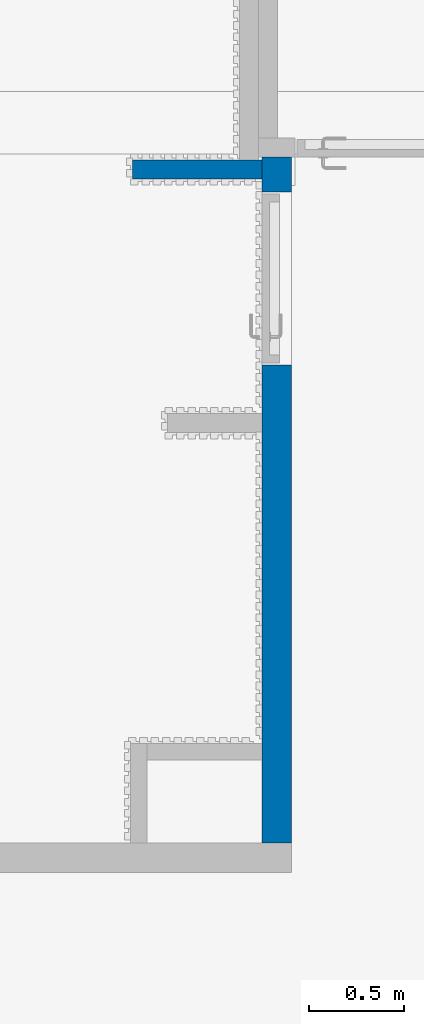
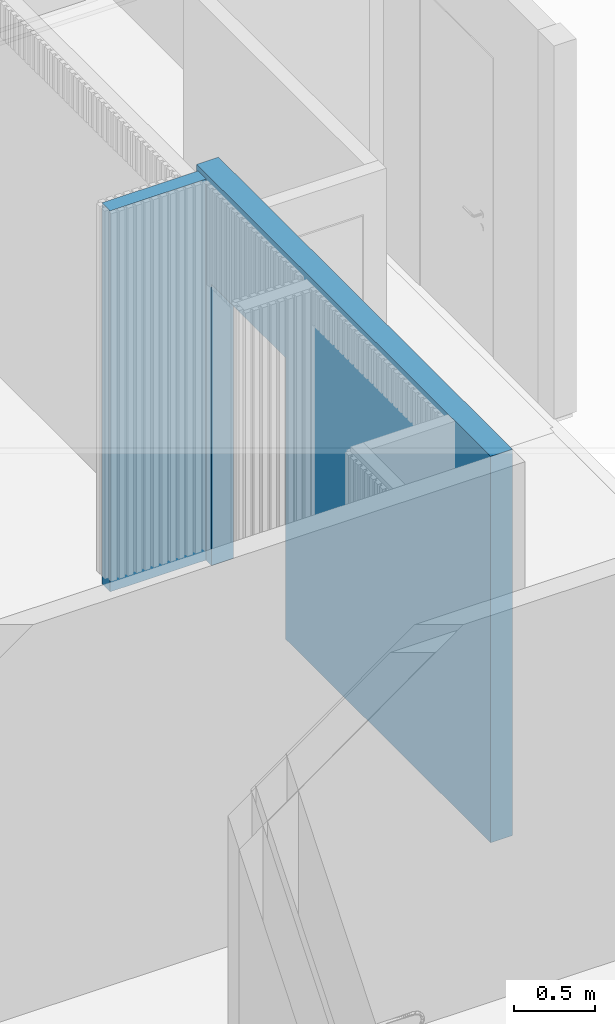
# One storey, part 21 of 37: 2 walls, 1 opening.
"""IFC2X3 building model written with IfcOpenShell, lengths in millimetres."""

from ifc_helpers import new_model, entity, si_unit, converted_unit, derived_unit, direction, frame, frame_2d, origin, origin_with_axes, place, context, subcontext, project, spatial, rectangle, extrude, material, layer, layer_set, layer_usage, type_object, element, save


model = new_model("IFC2X3")

# Units and contexts
model_context = context("Model", 3, precision=0.01, world=frame((0.0, 4.29681676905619e-09, 0.0)), true_north=direction((4.01073788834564e-13, 1.0)))
plan_context = context("Plan", 3, precision=0.01, world=frame((0.0, 4.29681676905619e-09, 0.0)), true_north=direction((4.01073788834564e-13, 1.0)))
body_context = subcontext(model_context, "Body", "Model", "MODEL_VIEW")
ifc_project = project(units=[converted_unit("PLANEANGLEUNIT", "DEGREE", entity("IfcPositiveLengthMeasure", 0.0174532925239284), si_unit("PLANEANGLEUNIT", "RADIAN"), dimensions=[0, 0, 0, 0, 0, 0, 0]), si_unit("AREAUNIT", "SQUARE_METRE"), si_unit("LENGTHUNIT", "METRE", prefix="MILLI"), si_unit("MASSUNIT", "GRAM", prefix="KILO"), si_unit("POWERUNIT", "WATT"), si_unit("PRESSUREUNIT", "PASCAL"), si_unit("FORCEUNIT", "NEWTON", prefix="KILO"), si_unit("ELECTRICVOLTAGEUNIT", "VOLT"), si_unit("ELECTRICCURRENTUNIT", "AMPERE"), si_unit("THERMODYNAMICTEMPERATUREUNIT", "DEGREE_CELSIUS"), si_unit("TIMEUNIT", "SECOND"), si_unit("VOLUMEUNIT", "CUBIC_METRE"), derived_unit("LINEARVELOCITYUNIT", [(si_unit("LENGTHUNIT", "METRE"), 1), (si_unit("TIMEUNIT", "SECOND"), -1)]), derived_unit("VOLUMETRICFLOWRATEUNIT", [(si_unit("VOLUMEUNIT", "CUBIC_METRE"), 1), (si_unit("TIMEUNIT", "SECOND"), -1)]), derived_unit("THERMALTRANSMITTANCEUNIT", [(si_unit("POWERUNIT", "WATT"), 1), (si_unit("THERMODYNAMICTEMPERATUREUNIT", "KELVIN"), -1), (si_unit("AREAUNIT", "SQUARE_METRE"), -1)]), derived_unit("SOUNDPRESSUREUNIT", [(si_unit("PRESSUREUNIT", "PASCAL"), 1)])], contexts=[model_context, plan_context])

# Site, building, storey
site_placement = place(None, origin_with_axes())
site = spatial("IfcSite", under=ifc_project, at=site_placement, Name="ENGM", CompositionType="ELEMENT")
building_placement = place(site_placement, origin_with_axes())
building = spatial("IfcBuilding", under=site, at=building_placement, Name="TS", CompositionType="ELEMENT")
storey_placement = place(building_placement, frame((0.0, 0.0, 210900.0), z_axis=(0.0, 0.0, 1.0), x_axis=(1.0, 0.0, 0.0)))
storey = spatial("IfcBuildingStorey", under=building, at=storey_placement, Name="Nivå F", CompositionType="ELEMENT", Elevation=210900.0)

# Wall, opening
ifc_material_1 = material(Name="Plate - Gips")
ifc_layer_1 = layer(ifc_material_1, 12.5)
ifc_material_2 = material(Name="_NSW X-finer")
ifc_layer_2 = layer(ifc_material_2, 15.0)
ifc_material_3 = material(Name="_NSW Stålstender, isolert UTEN SKRAVUR")
ifc_layer_3 = layer(ifc_material_3, 100.0)
ifc_layer_4 = layer(ifc_material_2, 15.0)
ifc_layer_5 = layer(ifc_material_1, 12.5)
ifc_layer_set_1 = layer_set([ifc_layer_1, ifc_layer_2, ifc_layer_3, ifc_layer_4, ifc_layer_5], Name="Basic Wall:A241 - SXVXS-100")
ifc_layer_usage_1 = layer_usage(ifc_layer_set_1, "AXIS2", "POSITIVE", -77.5)
wall_type_1 = type_object("IfcWallType", Name="Basic Wall:A241 - SXVXS-100", PredefinedType="STANDARD", material=ifc_layer_set_1)
wall_1_placement = place(storey_placement, frame((533660.037499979, 448076.999999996, 0.0), z_axis=(0.0, 0.0, 1.0), x_axis=(0.0, -1.0, 0.0)))
wall_1 = element("IfcWallStandardCase", 1, at=wall_1_placement, inside=storey, type_object=wall_type_1, material=ifc_layer_usage_1, Name="Basic Wall:A241 - SXVXS-100", ObjectType="Basic Wall:A241 - SXVXS-100", context=body_context, shape_type="SweptSolid", body=[
    extrude(rectangle(XDim=3614.4999999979, YDim=155.000000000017, at=frame_2d((1807.24999999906, 3.22728510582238e-11), x_axis=(1.0, 0.0))), origin(), (0.0, 0.0, 1.0), 2899.99999999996),
])
opening_placement = place(wall_1_placement, frame((1094.49999999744, 77.5000000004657, 0.0), z_axis=(0.0, 0.0, 1.0), x_axis=(1.0, 0.0, 0.0)))
element("IfcOpeningElement", 2, at=opening_placement, cuts=wall_1, Name="A20 - Slagdør - Enkel2:A243 - DI_LTO - 0890 x 2090 mm:1", ObjectType="Opening", context=body_context, shape_type="SweptSolid", body=[
    extrude(rectangle(XDim=2109.99999999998, YDim=909.999999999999, at=frame_2d((1054.99999999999, 455.0), x_axis=(1.0, 0.0))), frame((0.0, 0.0, 0.0), z_axis=(0.0, -1.0, 0.0), x_axis=(0.0, 0.0, 1.0)), (0.0, 0.0, 1.0), 155.0),
])

# Wall
ifc_layer_6 = layer(ifc_material_1, 12.5)
ifc_material_4 = material(Name="_NSW Stålstender, uisolert")
ifc_layer_7 = layer(ifc_material_4, 75.0)
ifc_layer_8 = layer(ifc_material_1, 12.5)
ifc_layer_set_2 = layer_set([ifc_layer_6, ifc_layer_7, ifc_layer_8], Name="Basic Wall:A241 - RVR-75.2")
ifc_layer_usage_2 = layer_usage(ifc_layer_set_2, "AXIS2", "NEGATIVE", 50.0)
wall_type_2 = type_object("IfcWallType", Name="Basic Wall:A241 - RVR-75.2", PredefinedType="STANDARD", material=ifc_layer_set_2)
wall_2_placement = place(storey_placement, frame((533582.537499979, 448011.346287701, 0.0), z_axis=(0.0, 0.0, 1.0), x_axis=(-1.0, 0.0, 0.0)))
element("IfcWallStandardCase", 3, at=wall_2_placement, inside=storey, type_object=wall_type_2, material=ifc_layer_usage_2, Name="Basic Wall:A241 - RVR-75.2", ObjectType="Basic Wall:A241 - RVR-75.2", context=body_context, shape_type="SweptSolid", body=[
    extrude(rectangle(XDim=680.66353947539, YDim=99.9999999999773, at=frame_2d((340.331769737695, 3.46531692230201e-11), x_axis=(-1.0, 0.0))), origin(), (0.0, 0.0, 1.0), 2859.99999999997),
])

save(model, "model.ifc")
